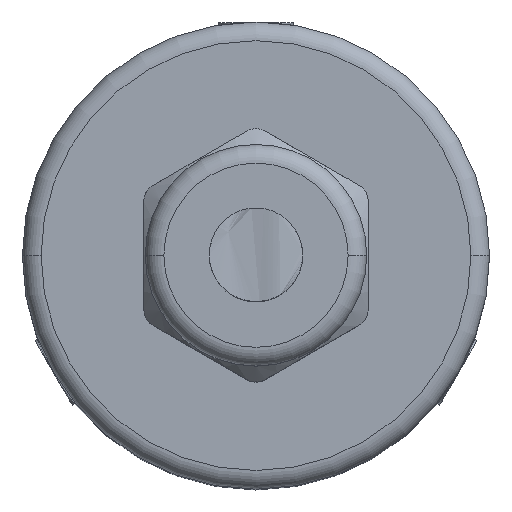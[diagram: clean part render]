
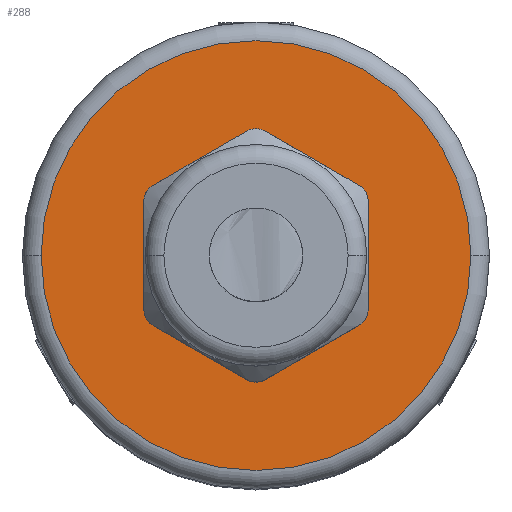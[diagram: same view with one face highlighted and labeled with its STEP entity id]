
A CAD part, top view. The second image highlights one B-rep face of the part: STEP entity #288.
In plain terms, the highlighted planar face has unit normal (0, 0, 1).
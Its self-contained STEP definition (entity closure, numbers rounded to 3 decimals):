
#132=PLANE('',#1891);
#174=FACE_BOUND('',#530,.T.);
#175=FACE_BOUND('',#531,.T.);
#288=ADVANCED_FACE('',(#174,#175),#132,.T.);
#530=EDGE_LOOP('',(#1064,#1065));
#531=EDGE_LOOP('',(#1066,#1067,#1068,#1069,#1070,#1071,#1072,#1073,#1074,
#1075,#1076,#1077));
#674=LINE('',#3057,#801);
#675=LINE('',#3062,#802);
#676=LINE('',#3066,#803);
#677=LINE('',#3070,#804);
#678=LINE('',#3074,#805);
#679=LINE('',#3078,#806);
#801=VECTOR('',#2237,1.);
#802=VECTOR('',#2240,1.);
#803=VECTOR('',#2243,1.);
#804=VECTOR('',#2246,1.);
#805=VECTOR('',#2249,1.);
#806=VECTOR('',#2252,1.);
#1064=ORIENTED_EDGE('',*,*,#1525,.T.);
#1065=ORIENTED_EDGE('',*,*,#1627,.T.);
#1066=ORIENTED_EDGE('',*,*,#1628,.F.);
#1067=ORIENTED_EDGE('',*,*,#1629,.T.);
#1068=ORIENTED_EDGE('',*,*,#1630,.F.);
#1069=ORIENTED_EDGE('',*,*,#1631,.T.);
#1070=ORIENTED_EDGE('',*,*,#1632,.F.);
#1071=ORIENTED_EDGE('',*,*,#1633,.T.);
#1072=ORIENTED_EDGE('',*,*,#1634,.F.);
#1073=ORIENTED_EDGE('',*,*,#1635,.T.);
#1074=ORIENTED_EDGE('',*,*,#1636,.F.);
#1075=ORIENTED_EDGE('',*,*,#1637,.T.);
#1076=ORIENTED_EDGE('',*,*,#1638,.F.);
#1077=ORIENTED_EDGE('',*,*,#1639,.T.);
#1369=VERTEX_POINT('',#2565);
#1370=VERTEX_POINT('',#2567);
#1441=VERTEX_POINT('',#3058);
#1442=VERTEX_POINT('',#3059);
#1443=VERTEX_POINT('',#3061);
#1444=VERTEX_POINT('',#3063);
#1445=VERTEX_POINT('',#3065);
#1446=VERTEX_POINT('',#3067);
#1447=VERTEX_POINT('',#3069);
#1448=VERTEX_POINT('',#3071);
#1449=VERTEX_POINT('',#3073);
#1450=VERTEX_POINT('',#3075);
#1451=VERTEX_POINT('',#3077);
#1452=VERTEX_POINT('',#3079);
#1525=EDGE_CURVE('',#1370,#1369,#1739,.T.);
#1627=EDGE_CURVE('',#1369,#1370,#1765,.T.);
#1628=EDGE_CURVE('',#1441,#1442,#674,.T.);
#1629=EDGE_CURVE('',#1441,#1443,#1766,.T.);
#1630=EDGE_CURVE('',#1444,#1443,#675,.T.);
#1631=EDGE_CURVE('',#1444,#1445,#1767,.T.);
#1632=EDGE_CURVE('',#1446,#1445,#676,.T.);
#1633=EDGE_CURVE('',#1446,#1447,#1768,.T.);
#1634=EDGE_CURVE('',#1448,#1447,#677,.T.);
#1635=EDGE_CURVE('',#1448,#1449,#1769,.T.);
#1636=EDGE_CURVE('',#1450,#1449,#678,.T.);
#1637=EDGE_CURVE('',#1450,#1451,#1770,.T.);
#1638=EDGE_CURVE('',#1452,#1451,#679,.T.);
#1639=EDGE_CURVE('',#1452,#1442,#1771,.T.);
#1739=CIRCLE('',#1825,11.5);
#1765=CIRCLE('',#1884,11.5);
#1766=CIRCLE('',#1885,1.);
#1767=CIRCLE('',#1886,1.);
#1768=CIRCLE('',#1887,1.);
#1769=CIRCLE('',#1888,1.);
#1770=CIRCLE('',#1889,1.);
#1771=CIRCLE('',#1890,1.);
#1825=AXIS2_PLACEMENT_3D('',#2566,#2061,#2062);
#1884=AXIS2_PLACEMENT_3D('',#3056,#2235,#2236);
#1885=AXIS2_PLACEMENT_3D('',#3060,#2238,#2239);
#1886=AXIS2_PLACEMENT_3D('',#3064,#2241,#2242);
#1887=AXIS2_PLACEMENT_3D('',#3068,#2244,#2245);
#1888=AXIS2_PLACEMENT_3D('',#3072,#2247,#2248);
#1889=AXIS2_PLACEMENT_3D('',#3076,#2250,#2251);
#1890=AXIS2_PLACEMENT_3D('',#3080,#2253,#2254);
#1891=AXIS2_PLACEMENT_3D('',#3081,#2255,#2256);
#2061=DIRECTION('',(0.,0.,1.));
#2062=DIRECTION('',(1.,0.,0.));
#2235=DIRECTION('',(0.,0.,1.));
#2236=DIRECTION('',(1.,0.,0.));
#2237=DIRECTION('',(0.866,-0.5,0.));
#2238=DIRECTION('',(0.,0.,-1.));
#2239=DIRECTION('',(1.,0.,0.));
#2240=DIRECTION('',(0.,-1.,0.));
#2241=DIRECTION('',(0.,0.,-1.));
#2242=DIRECTION('',(1.,0.,0.));
#2243=DIRECTION('',(-0.866,-0.5,0.));
#2244=DIRECTION('',(0.,0.,-1.));
#2245=DIRECTION('',(1.,0.,0.));
#2246=DIRECTION('',(-0.866,0.5,0.));
#2247=DIRECTION('',(0.,0.,-1.));
#2248=DIRECTION('',(1.,0.,0.));
#2249=DIRECTION('',(0.,1.,0.));
#2250=DIRECTION('',(0.,0.,-1.));
#2251=DIRECTION('',(1.,0.,0.));
#2252=DIRECTION('',(0.866,0.5,0.));
#2253=DIRECTION('',(0.,0.,-1.));
#2254=DIRECTION('',(1.,0.,0.));
#2255=DIRECTION('',(0.,0.,1.));
#2256=DIRECTION('',(-1.,0.,0.));
#2565=CARTESIAN_POINT('',(-11.5,0.,26.));
#2566=CARTESIAN_POINT('',(0.,0.,26.));
#2567=CARTESIAN_POINT('',(11.5,0.,26.));
#3056=CARTESIAN_POINT('',(0.,0.,26.));
#3057=CARTESIAN_POINT('',(-6.,-3.464,26.));
#3058=CARTESIAN_POINT('',(-5.5,-3.753,26.));
#3059=CARTESIAN_POINT('',(-0.5,-6.64,26.));
#3060=CARTESIAN_POINT('',(-5.,-2.887,26.));
#3061=CARTESIAN_POINT('',(-6.,-2.887,26.));
#3062=CARTESIAN_POINT('',(-6.,3.464,26.));
#3063=CARTESIAN_POINT('',(-6.,2.887,26.));
#3064=CARTESIAN_POINT('',(-5.,2.887,26.));
#3065=CARTESIAN_POINT('',(-5.5,3.753,26.));
#3066=CARTESIAN_POINT('',(0.,6.928,26.));
#3067=CARTESIAN_POINT('',(-0.5,6.64,26.));
#3068=CARTESIAN_POINT('',(0.,5.774,26.));
#3069=CARTESIAN_POINT('',(0.5,6.64,26.));
#3070=CARTESIAN_POINT('',(6.,3.464,26.));
#3071=CARTESIAN_POINT('',(5.5,3.753,26.));
#3072=CARTESIAN_POINT('',(5.,2.887,26.));
#3073=CARTESIAN_POINT('',(6.,2.887,26.));
#3074=CARTESIAN_POINT('',(6.,-3.464,26.));
#3075=CARTESIAN_POINT('',(6.,-2.887,26.));
#3076=CARTESIAN_POINT('',(5.,-2.887,26.));
#3077=CARTESIAN_POINT('',(5.5,-3.753,26.));
#3078=CARTESIAN_POINT('',(0.,-6.928,26.));
#3079=CARTESIAN_POINT('',(0.5,-6.64,26.));
#3080=CARTESIAN_POINT('',(0.,-5.774,26.));
#3081=CARTESIAN_POINT('',(0.,0.,26.));
